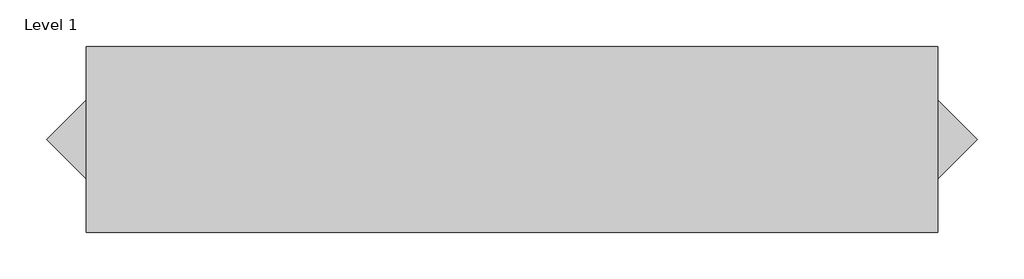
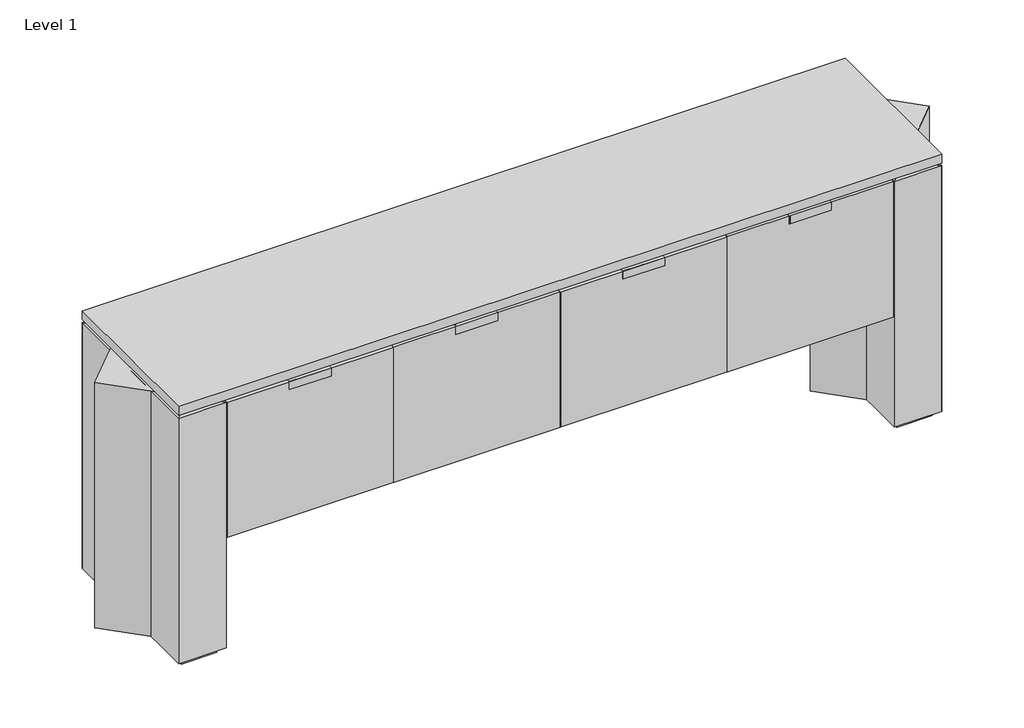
# One storey: 5 proxies.
"""IFC4 building model written with IfcOpenShell, lengths in millimetres."""

from ifc_helpers import new_model, si_unit, origin, place, context, project, spatial, transform, mapped, element, save
from components import generic_models_a6464a1e, pull_2518_0e440d19

model = new_model("IFC4")

# Units and contexts
model_context = context("Model", 3, world=origin())
ifc_project = project(units=[si_unit("LENGTHUNIT", "METRE", prefix="MILLI")], contexts=[model_context])

# Site, building, storey
site = spatial("IfcSite", under=ifc_project)
building = spatial("IfcBuilding", under=site)
storey = spatial("IfcBuildingStorey", under=building, Name="Level 1", Elevation=0.0)

# Proxies
placement = place(None, origin())
generic_models_shape = generic_models_a6464a1e(model_context)
element("IfcBuildingElementProxy", 1, Name="BASYS^CREDENZA 3_4 DOORS SQUARE LEG-PARTS SOLID", ObjectType="BASYS^CREDENZA 3_4 DOORS SQUARE LEG-PARTS SOLID", at=placement, inside=storey, context=model_context, shape_type="MappedRepresentation", body=[
    mapped(generic_models_shape, transform((0.0, -533.4, 858.8375), x_axis=(1.0, 0.0, 0.0), y_axis=(0.0, 0.0, 1.0), z_axis=(0.0, -1.0, 0.0))),
])
pull_2518_shape = pull_2518_0e440d19(model_context)
element("IfcBuildingElementProxy", 2, Name="PULL 2518", ObjectType="PULL 2518", at=placement, inside=storey, context=model_context, shape_type="MappedRepresentation", body=[
    mapped(pull_2518_shape, transform((305.4004818, -521.208, 909.4210192), x_axis=(1.0, 0.0, 0.0), y_axis=(0.0, 0.0, 1.0), z_axis=(0.0, -1.0, 0.0))),
])
element("IfcBuildingElementProxy", 3, Name="PULL 2518", ObjectType="PULL 2518", at=placement, inside=storey, context=model_context, shape_type="MappedRepresentation", body=[
    mapped(pull_2518_shape, transform((1903.8145441, -521.208, 909.4210192), x_axis=(1.0, 0.0, 0.0), y_axis=(0.0, 0.0, 1.0), z_axis=(0.0, -1.0, 0.0))),
])
element("IfcBuildingElementProxy", 4, Name="PULL 2518", ObjectType="PULL 2518", at=placement, inside=storey, context=model_context, shape_type="MappedRepresentation", body=[
    mapped(pull_2518_shape, transform((1371.0098568, -521.208, 909.4210192), x_axis=(1.0, 0.0, 0.0), y_axis=(0.0, 0.0, 1.0), z_axis=(0.0, -1.0, 0.0))),
])
element("IfcBuildingElementProxy", 5, Name="PULL 2518", ObjectType="PULL 2518", at=placement, inside=storey, context=model_context, shape_type="MappedRepresentation", body=[
    mapped(pull_2518_shape, transform((838.2051691, -521.208, 909.4210192), x_axis=(1.0, 0.0, 0.0), y_axis=(0.0, 0.0, 1.0), z_axis=(0.0, -1.0, 0.0))),
])

save(model, "model.ifc")
